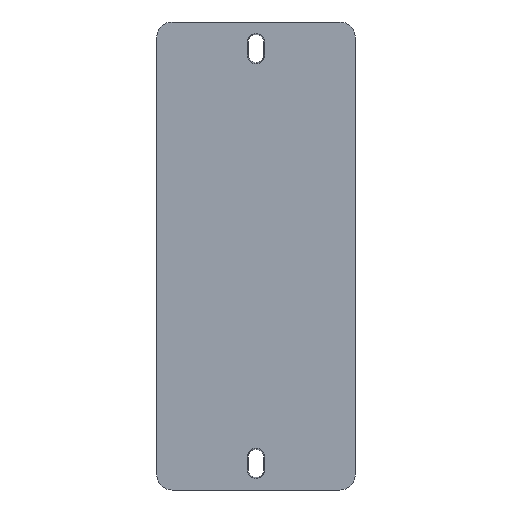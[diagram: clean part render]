
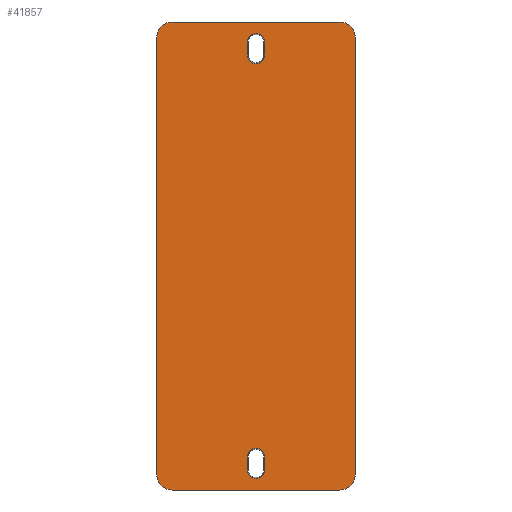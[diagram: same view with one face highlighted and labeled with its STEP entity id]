
A CAD part, front view. The second image highlights one B-rep face of the part: STEP entity #41857.
In plain terms, the highlighted planar face has unit normal (0, -1, 0).
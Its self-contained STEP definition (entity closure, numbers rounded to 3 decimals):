
#1510=CARTESIAN_POINT('',(27.5,0.,-37.2));
#1511=DIRECTION('',(0.,-1.,0.));
#1512=DIRECTION('',(0.,0.,-1.));
#1513=AXIS2_PLACEMENT_3D('',#1510,#1511,#1512);
#1515=DIRECTION('',(1.,0.,0.));
#1516=VECTOR('',#1515,55.);
#1517=CARTESIAN_POINT('',(-27.5,0.,-42.2));
#1518=LINE('',#1517,#1516);
#1519=CARTESIAN_POINT('',(-27.5,0.,-37.2));
#1520=DIRECTION('',(0.,-1.,0.));
#1521=DIRECTION('',(-1.,0.,0.));
#1522=AXIS2_PLACEMENT_3D('',#1519,#1520,#1521);
#1524=DIRECTION('',(0.,0.,-1.));
#1525=VECTOR('',#1524,143.4);
#1526=CARTESIAN_POINT('',(-32.5,0.,106.2));
#1527=LINE('',#1526,#1525);
#1528=CARTESIAN_POINT('',(-27.5,0.,106.2));
#1529=DIRECTION('',(0.,-1.,0.));
#1530=DIRECTION('',(0.,0.,1.));
#1531=AXIS2_PLACEMENT_3D('',#1528,#1529,#1530);
#1533=DIRECTION('',(-1.,0.,0.));
#1534=VECTOR('',#1533,55.);
#1535=CARTESIAN_POINT('',(27.5,0.,111.2));
#1536=LINE('',#1535,#1534);
#1537=CARTESIAN_POINT('',(27.5,0.,106.2));
#1538=DIRECTION('',(0.,-1.,0.));
#1539=DIRECTION('',(1.,0.,0.));
#1540=AXIS2_PLACEMENT_3D('',#1537,#1538,#1539);
#1542=DIRECTION('',(0.,0.,1.));
#1543=VECTOR('',#1542,143.4);
#1544=CARTESIAN_POINT('',(32.5,0.,-37.2));
#1545=LINE('',#1544,#1543);
#1546=CARTESIAN_POINT('',(0.,0.,-35.5));
#1547=DIRECTION('',(0.,1.,0.));
#1548=DIRECTION('',(0.,0.,-1.));
#1549=AXIS2_PLACEMENT_3D('',#1546,#1547,#1548);
#1551=CARTESIAN_POINT('',(0.,0.,-35.5));
#1552=DIRECTION('',(0.,1.,0.));
#1553=DIRECTION('',(1.,0.,0.));
#1554=AXIS2_PLACEMENT_3D('',#1551,#1552,#1553);
#1556=DIRECTION('',(0.,0.,-1.));
#1557=VECTOR('',#1556,4.);
#1558=CARTESIAN_POINT('',(2.944,0.,
-31.5));
#1559=LINE('',#1558,#1557);
#1560=CARTESIAN_POINT('',(0.,0.,-31.5));
#1561=DIRECTION('',(0.,1.,0.));
#1562=DIRECTION('',(0.,0.,1.));
#1563=AXIS2_PLACEMENT_3D('',#1560,#1561,#1562);
#1565=CARTESIAN_POINT('',(0.,0.,-31.5));
#1566=DIRECTION('',(0.,1.,0.));
#1567=DIRECTION('',(-1.,0.,0.));
#1568=AXIS2_PLACEMENT_3D('',#1565,#1566,#1567);
#1570=DIRECTION('',(0.,0.,1.));
#1571=VECTOR('',#1570,4.);
#1572=CARTESIAN_POINT('',(-2.944,0.,
-35.5));
#1573=LINE('',#1572,#1571);
#1574=CARTESIAN_POINT('',(0.,0.,104.5));
#1575=DIRECTION('',(0.,1.,0.));
#1576=DIRECTION('',(-1.,0.,0.));
#1577=AXIS2_PLACEMENT_3D('',#1574,#1575,#1576);
#1579=DIRECTION('',(0.,0.,1.));
#1580=VECTOR('',#1579,4.);
#1581=CARTESIAN_POINT('',(-2.939,0.,
100.5));
#1582=LINE('',#1581,#1580);
#1583=CARTESIAN_POINT('',(0.,0.,100.5));
#1584=DIRECTION('',(0.,1.,0.));
#1585=DIRECTION('',(0.,0.,-1.));
#1586=AXIS2_PLACEMENT_3D('',#1583,#1584,#1585);
#1588=CARTESIAN_POINT('',(0.,0.,100.5));
#1589=DIRECTION('',(0.,1.,0.));
#1590=DIRECTION('',(1.,0.,0.));
#1591=AXIS2_PLACEMENT_3D('',#1588,#1589,#1590);
#1593=DIRECTION('',(0.,0.,-1.));
#1594=VECTOR('',#1593,4.);
#1595=CARTESIAN_POINT('',(2.939,0.,
104.5));
#1596=LINE('',#1595,#1594);
#1597=CARTESIAN_POINT('',(0.,0.,104.5));
#1598=DIRECTION('',(0.,1.,0.));
#1599=DIRECTION('',(0.,0.,1.));
#1600=AXIS2_PLACEMENT_3D('',#1597,#1598,#1599);
#33796=CARTESIAN_POINT('',(32.5,0.,106.2));
#33798=VERTEX_POINT('',#33796);
#33878=CARTESIAN_POINT('',(-27.5,0.,-42.2));
#33880=VERTEX_POINT('',#33878);
#34025=CARTESIAN_POINT('',(-32.5,0.,-37.2));
#34026=VERTEX_POINT('',#34025);
#34607=CARTESIAN_POINT('',(-2.939,0.,
100.5));
#34608=CARTESIAN_POINT('',(-2.939,0.,
104.5));
#34609=VERTEX_POINT('',#34607);
#34610=VERTEX_POINT('',#34608);
#34979=CARTESIAN_POINT('',(-32.5,0.,106.2));
#34981=VERTEX_POINT('',#34979);
#35091=CARTESIAN_POINT('',(2.939,0.,
104.5));
#35093=VERTEX_POINT('',#35091);
#36486=CARTESIAN_POINT('',(-2.944,0.,-31.5));
#36487=VERTEX_POINT('',#36486);
#36699=CARTESIAN_POINT('',(27.5,0.,-42.2));
#36700=CARTESIAN_POINT('',(32.5,0.,-37.2));
#36701=VERTEX_POINT('',#36699);
#36702=VERTEX_POINT('',#36700);
#37003=CARTESIAN_POINT('',(0.,0.,107.439));
#37004=VERTEX_POINT('',#37003);
#37487=CARTESIAN_POINT('',(2.944,0.,
-31.5));
#37488=CARTESIAN_POINT('',(2.944,0.,
-35.5));
#37489=VERTEX_POINT('',#37487);
#37490=VERTEX_POINT('',#37488);
#37813=CARTESIAN_POINT('',(27.5,0.,111.2));
#37814=VERTEX_POINT('',#37813);
#38590=CARTESIAN_POINT('',(0.,0.,-38.444));
#38591=CARTESIAN_POINT('',(-2.944,0.,-35.5));
#38592=VERTEX_POINT('',#38590);
#38593=VERTEX_POINT('',#38591);
#38656=CARTESIAN_POINT('',(-27.5,0.,111.2));
#38657=VERTEX_POINT('',#38656);
#38941=CARTESIAN_POINT('',(2.939,0.,100.5));
#38942=CARTESIAN_POINT('',(0.,0.,
97.561));
#38943=VERTEX_POINT('',#38941);
#38944=VERTEX_POINT('',#38942);
#39182=CARTESIAN_POINT('',(0.,0.,
-28.556));
#39183=VERTEX_POINT('',#39182);
#41807=CARTESIAN_POINT('',(0.,0.,0.));
#41808=DIRECTION('',(0.,1.,0.));
#41809=DIRECTION('',(0.,0.,1.));
#41810=AXIS2_PLACEMENT_3D('',#41807,#41808,#41809);
#41811=PLANE('',#41810);
#41812=ORIENTED_EDGE('',*,*,#41795,.F.);
#41814=ORIENTED_EDGE('',*,*,#41813,.F.);
#41816=ORIENTED_EDGE('',*,*,#41815,.F.);
#41818=ORIENTED_EDGE('',*,*,#41817,.F.);
#41820=ORIENTED_EDGE('',*,*,#41819,.F.);
#41822=ORIENTED_EDGE('',*,*,#41821,.F.);
#41824=ORIENTED_EDGE('',*,*,#41823,.F.);
#41826=ORIENTED_EDGE('',*,*,#41825,.F.);
#41827=EDGE_LOOP('',(#41812,#41814,#41816,#41818,#41820,#41822,#41824,#41826));
#41828=FACE_OUTER_BOUND('',#41827,.F.);
#41830=ORIENTED_EDGE('',*,*,#41829,.F.);
#41832=ORIENTED_EDGE('',*,*,#41831,.F.);
#41834=ORIENTED_EDGE('',*,*,#41833,.F.);
#41836=ORIENTED_EDGE('',*,*,#41835,.F.);
#41838=ORIENTED_EDGE('',*,*,#41837,.F.);
#41840=ORIENTED_EDGE('',*,*,#41839,.F.);
#41841=EDGE_LOOP('',(#41830,#41832,#41834,#41836,#41838,#41840));
#41842=FACE_BOUND('',#41841,.F.);
#41844=ORIENTED_EDGE('',*,*,#41843,.F.);
#41846=ORIENTED_EDGE('',*,*,#41845,.F.);
#41848=ORIENTED_EDGE('',*,*,#41847,.F.);
#41850=ORIENTED_EDGE('',*,*,#41849,.F.);
#41852=ORIENTED_EDGE('',*,*,#41851,.F.);
#41854=ORIENTED_EDGE('',*,*,#41853,.F.);
#41855=EDGE_LOOP('',(#41844,#41846,#41848,#41850,#41852,#41854));
#41856=FACE_BOUND('',#41855,.F.);
#41857=ADVANCED_FACE('',(#41828,#41842,#41856),#41811,.F.);
#1514=CIRCLE('',#1513,5.);
#1523=CIRCLE('',#1522,5.);
#1532=CIRCLE('',#1531,5.);
#1541=CIRCLE('',#1540,5.);
#1550=CIRCLE('',#1549,2.944);
#1555=CIRCLE('',#1554,2.944);
#1564=CIRCLE('',#1563,2.944);
#1569=CIRCLE('',#1568,2.944);
#1578=CIRCLE('',#1577,2.939);
#1587=CIRCLE('',#1586,2.939);
#1592=CIRCLE('',#1591,2.939);
#1601=CIRCLE('',#1600,2.939);
#41795=EDGE_CURVE('',#36701,#36702,#1514,.T.);
#41813=EDGE_CURVE('',#33880,#36701,#1518,.T.);
#41815=EDGE_CURVE('',#34026,#33880,#1523,.T.);
#41817=EDGE_CURVE('',#34981,#34026,#1527,.T.);
#41819=EDGE_CURVE('',#38657,#34981,#1532,.T.);
#41821=EDGE_CURVE('',#37814,#38657,#1536,.T.);
#41823=EDGE_CURVE('',#33798,#37814,#1541,.T.);
#41825=EDGE_CURVE('',#36702,#33798,#1545,.T.);
#41829=EDGE_CURVE('',#38592,#38593,#1550,.T.);
#41831=EDGE_CURVE('',#37490,#38592,#1555,.T.);
#41833=EDGE_CURVE('',#37489,#37490,#1559,.T.);
#41835=EDGE_CURVE('',#39183,#37489,#1564,.T.);
#41837=EDGE_CURVE('',#36487,#39183,#1569,.T.);
#41839=EDGE_CURVE('',#38593,#36487,#1573,.T.);
#41843=EDGE_CURVE('',#34610,#37004,#1578,.T.);
#41845=EDGE_CURVE('',#34609,#34610,#1582,.T.);
#41847=EDGE_CURVE('',#38944,#34609,#1587,.T.);
#41849=EDGE_CURVE('',#38943,#38944,#1592,.T.);
#41851=EDGE_CURVE('',#35093,#38943,#1596,.T.);
#41853=EDGE_CURVE('',#37004,#35093,#1601,.T.);
